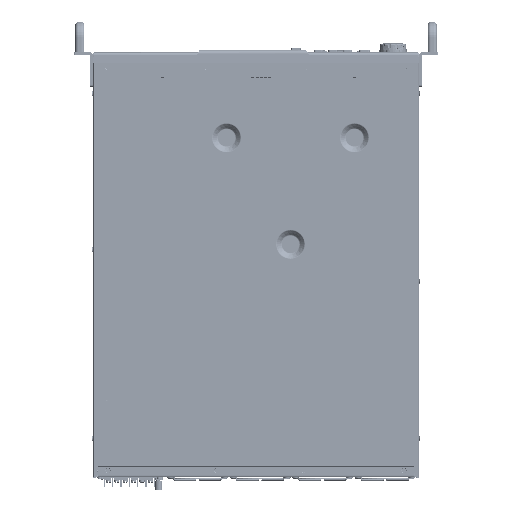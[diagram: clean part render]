
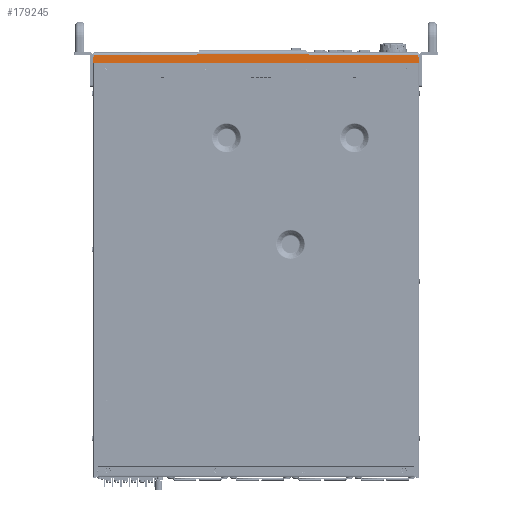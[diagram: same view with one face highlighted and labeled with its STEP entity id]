
A CAD part, front view. The second image highlights one B-rep face of the part: STEP entity #179245.
In plain terms, the highlighted planar face has unit normal (0, -0.999, 0.035).
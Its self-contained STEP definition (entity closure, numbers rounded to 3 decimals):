
#155346=CARTESIAN_POINT('',(-214.,0.,-17.2));
#155352=DIRECTION('',(1.,0.,0.));
#155353=VECTOR('',#155352,428.);
#155354=CARTESIAN_POINT('',(-214.,0.,-17.2));
#155355=LINE('',#155354,#155353);
#155360=CARTESIAN_POINT('',(214.,0.,-17.2));
#156763=DIRECTION('',(0.07,-0.035,-0.997));
#156764=VECTOR('',#156763,10.371);
#156765=CARTESIAN_POINT('',(213.277,0.361,
-6.86));
#156766=LINE('',#156765,#156764);
#156767=DIRECTION('',(0.07,0.035,0.997));
#156768=VECTOR('',#156767,10.371);
#156769=CARTESIAN_POINT('',(-214.,0.,-17.2));
#156770=LINE('',#156769,#156768);
#156771=DIRECTION('',(1.,0.,0.));
#156772=VECTOR('',#156771,135.316);
#156773=CARTESIAN_POINT('',(-213.277,0.361,
-6.86));
#156774=LINE('',#156773,#156772);
#156775=DIRECTION('',(1.,0.,0.));
#156776=VECTOR('',#156775,145.572);
#156777=CARTESIAN_POINT('',(-76.786,0.432,
-4.826));
#156778=LINE('',#156777,#156776);
#156779=DIRECTION('',(1.,0.,0.));
#156780=VECTOR('',#156779,143.316);
#156781=CARTESIAN_POINT('',(69.961,0.361,
-6.86));
#156782=LINE('',#156781,#156780);
#161016=CARTESIAN_POINT('',(-76.786,0.432,
-4.826));
#161024=DIRECTION('',(0.5,0.03,0.866));
#161025=VECTOR('',#161024,2.351);
#161026=CARTESIAN_POINT('',(-77.961,0.361,
-6.86));
#161027=LINE('',#161026,#161025);
#161106=CARTESIAN_POINT('',(-213.277,0.361,
-6.86));
#161123=DIRECTION('',(-0.5,0.03,0.866));
#161124=VECTOR('',#161123,2.351);
#161125=CARTESIAN_POINT('',(69.961,0.361,
-6.86));
#161126=LINE('',#161125,#161124);
#161133=CARTESIAN_POINT('',(68.786,0.432,
-4.826));
#173580=VERTEX_POINT('',#161133);
#173581=CARTESIAN_POINT('',(69.961,0.361,
-6.86));
#173582=VERTEX_POINT('',#173581);
#173587=VERTEX_POINT('',#161016);
#173589=CARTESIAN_POINT('',(-77.961,0.361,
-6.86));
#173590=VERTEX_POINT('',#173589);
#173893=VERTEX_POINT('',#155360);
#173894=CARTESIAN_POINT('',(213.277,0.361,
-6.86));
#173895=VERTEX_POINT('',#173894);
#173912=VERTEX_POINT('',#161106);
#173914=VERTEX_POINT('',#155346);
#179224=CARTESIAN_POINT('',(-220.391,0.,-17.2));
#179225=DIRECTION('',(0.,-0.999,0.035));
#179226=DIRECTION('',(1.,0.,0.));
#179227=AXIS2_PLACEMENT_3D('',#179224,#179225,#179226);
#179228=PLANE('',#179227);
#179229=ORIENTED_EDGE('',*,*,#179216,.T.);
#179230=ORIENTED_EDGE('',*,*,#177941,.F.);
#179232=ORIENTED_EDGE('',*,*,#179231,.T.);
#179234=ORIENTED_EDGE('',*,*,#179233,.T.);
#179236=ORIENTED_EDGE('',*,*,#179235,.T.);
#179238=ORIENTED_EDGE('',*,*,#179237,.T.);
#179240=ORIENTED_EDGE('',*,*,#179239,.F.);
#179242=ORIENTED_EDGE('',*,*,#179241,.T.);
#179243=EDGE_LOOP('',(#179229,#179230,#179232,#179234,#179236,#179238,#179240,
#179242));
#179244=FACE_OUTER_BOUND('',#179243,.F.);
#179245=ADVANCED_FACE('',(#179244),#179228,.T.);
#177941=EDGE_CURVE('',#173914,#173893,#155355,.T.);
#179216=EDGE_CURVE('',#173895,#173893,#156766,.T.);
#179231=EDGE_CURVE('',#173914,#173912,#156770,.T.);
#179233=EDGE_CURVE('',#173912,#173590,#156774,.T.);
#179235=EDGE_CURVE('',#173590,#173587,#161027,.T.);
#179237=EDGE_CURVE('',#173587,#173580,#156778,.T.);
#179239=EDGE_CURVE('',#173582,#173580,#161126,.T.);
#179241=EDGE_CURVE('',#173582,#173895,#156782,.T.);
